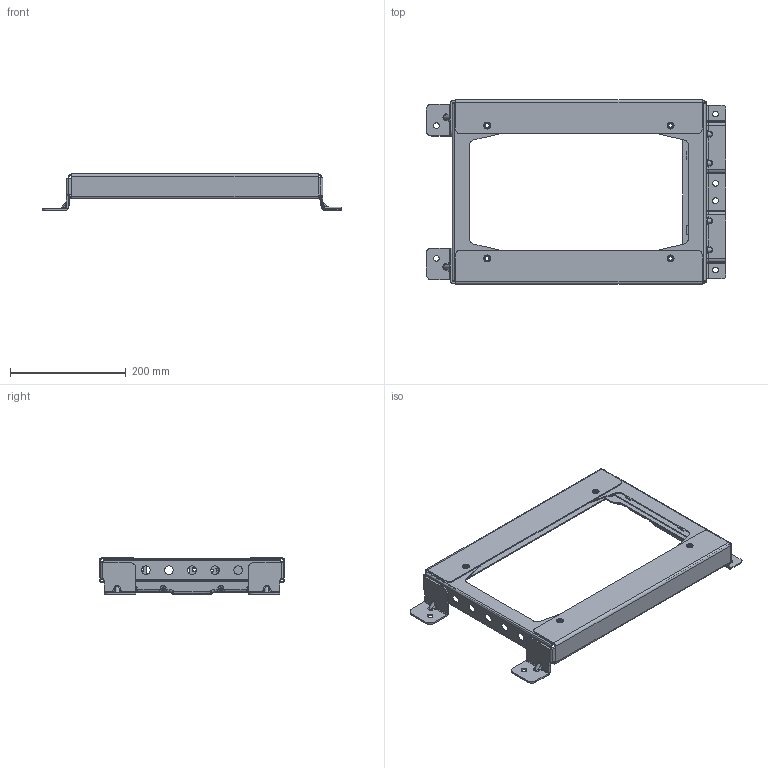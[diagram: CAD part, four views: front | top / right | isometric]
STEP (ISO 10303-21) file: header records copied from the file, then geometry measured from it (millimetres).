
FILE_DESCRIPTION(('CATIA V5 STEP Exchange'),'2;1');
FILE_NAME('E:\吉利商用车G3\3D\新开件\焊接总成\SHT0015276.stp','2022-12-21T02:47:12+00:00',('none'),('none'),'CATIA Version 5 Release 20 GA (IN-10)','CATIA V5 STEP AP214','none');
FILE_SCHEMA(('AUTOMOTIVE_DESIGN { 1 0 10303 214 1 1 1 1 }'));
Products named in the file (1): 680
Bounding box: 519 x 320 x 64 mm (x, y, z)
Volume: 429791.7 mm3; surface area: 449263 mm2
Topology: 22 solids, 22 shells, 1117 faces, 2968 edges, 1835 vertices
Faces by surface type: cylinder 455, plane 426, cone 96, bspline 60, sphere 56, extrusion 16, torus 8
Entity records: 43926 total; most frequent: CARTESIAN_POINT 18673, ORIENTED_EDGE 5816, DIRECTION 3971, EDGE_CURVE 2908, VERTEX_POINT 1835, AXIS2_PLACEMENT_3D 1519, VECTOR 1513, LINE 1497
